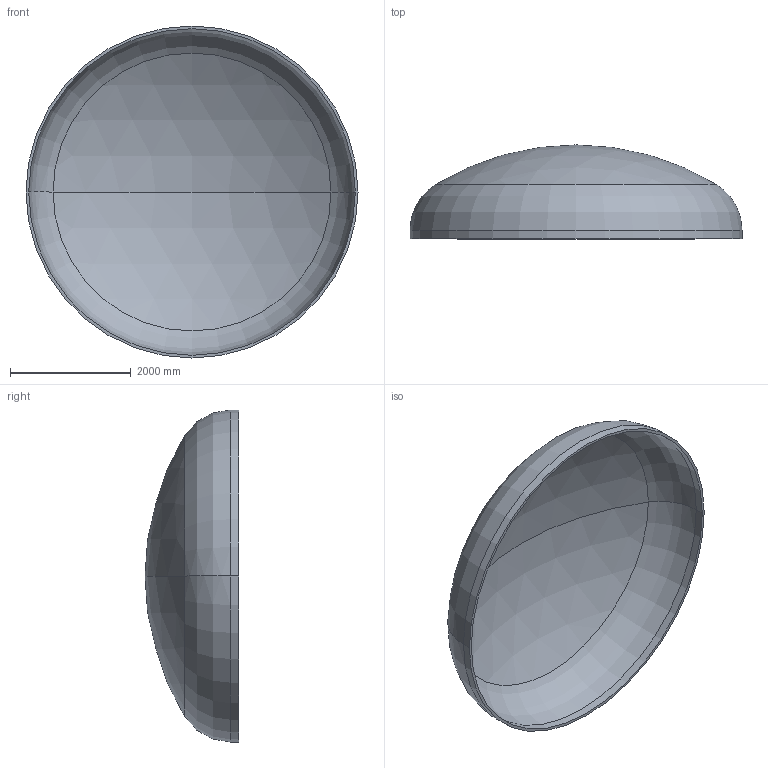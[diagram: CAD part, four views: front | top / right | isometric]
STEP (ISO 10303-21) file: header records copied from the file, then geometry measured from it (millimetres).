
FILE_DESCRIPTION (( 'STEP AP203' ), '1' );
FILE_NAME ('DIN 28013 Korbbogenform_-_Boden DIN 28013 - 5500 x 140 - I - s=45.step', '2016-07-04T10:34:16', ( '' ), ( '' ), 'SwSTEP 2.0', 'SolidWorks 2013', '' );
FILE_SCHEMA (( 'CONFIG_CONTROL_DESIGN' ));
Length unit declared in the file: millimetre
Products named in the file (1): DIN 28013 Korbbogenform_-_Boden DIN 28013 - 5500 x 140 - I - s=45
Bounding box: 5500 x 1555.41 x 5500 mm (x, y, z)
Volume: 1572082750.2 mm3; surface area: 70645741.6 mm2
Topology: 1 solids, 1 shells, 13 faces, 24 edges, 14 vertices
Faces by surface type: torus 4, cylinder 4, sphere 4, plane 1
Entity records: 407 total; most frequent: DIRECTION 72, CARTESIAN_POINT 52, ORIENTED_EDGE 48, AXIS2_PLACEMENT_3D 34, EDGE_CURVE 24, CIRCLE 20, VERTEX_POINT 14, EDGE_LOOP 14
